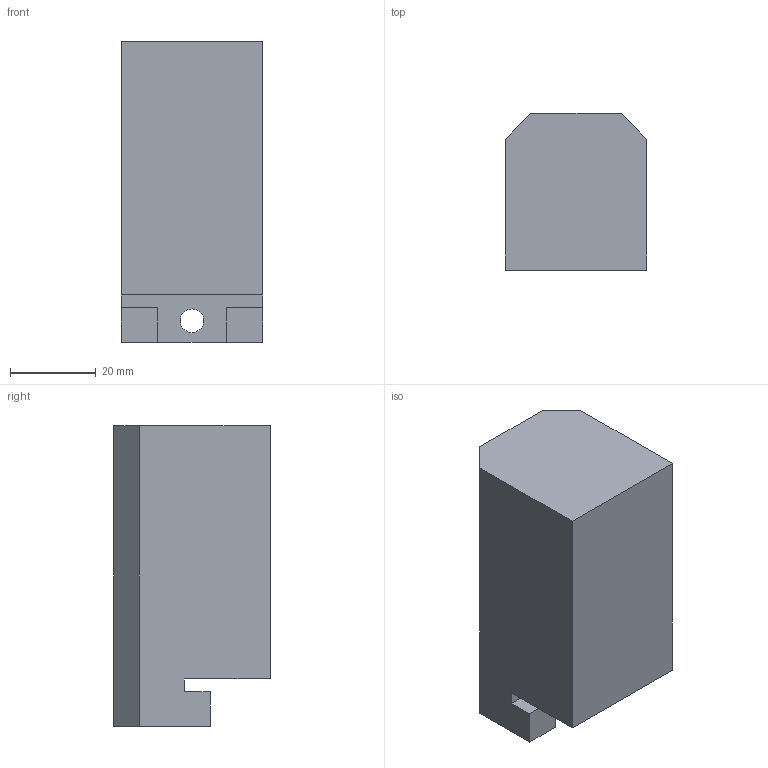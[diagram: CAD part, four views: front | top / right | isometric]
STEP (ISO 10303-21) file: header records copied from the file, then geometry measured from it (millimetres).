
FILE_DESCRIPTION (( 'STEP AP214' ), '1' );
FILE_NAME ('7399.STEP', '2019-08-29T19:02:06', ( 'EMI' ), ( 'Microsoft' ), 'SwSTEP 2.0', 'SolidWorks 2018', '' );
FILE_SCHEMA (( 'AUTOMOTIVE_DESIGN' ));
Length unit declared in the file: millimetre
Products named in the file (1): 7399
Bounding box: 33 x 36.5 x 70 mm (x, y, z)
Volume: 74720.3 mm3; surface area: 11758.9 mm2
Topology: 1 solids, 1 shells, 21 faces, 58 edges, 39 vertices
Faces by surface type: plane 19, cylinder 2
Full cylindrical faces by diameter (mm): 5.5 x1
Entity records: 688 total; most frequent: CARTESIAN_POINT 116, ORIENTED_EDGE 112, DIRECTION 104, EDGE_CURVE 56, VECTOR 52, LINE 52, VERTEX_POINT 38, AXIS2_PLACEMENT_3D 26
